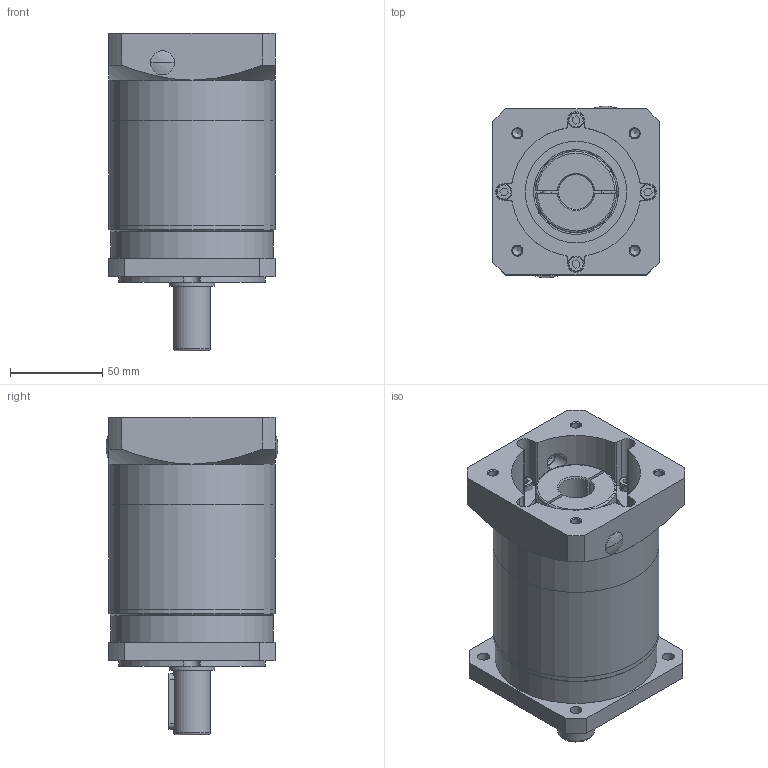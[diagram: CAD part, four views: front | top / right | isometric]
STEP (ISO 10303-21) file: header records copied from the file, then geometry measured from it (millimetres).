
FILE_DESCRIPTION(/* description */ (''),/* implementation_level */ '2;1');
FILE_NAME(/* name */ 'NA-090-L2(19-70-90-M6)(输出轴Φ20）.stp',/* time_stamp */ '2021-11-24T14:30:42+08:00',/* author */ (''),/* organization */ (''),/* preprocessor_version */ 'ST-DEVELOPER v16',/* originating_system */ 'SIEMENS PLM Software NX 10.0',/* authorisation */ '');
FILE_SCHEMA (('AP203_CONFIGURATION_CONTROLLED_3D_DESIGN_OF_MECHANICAL_PARTS_AND_ASSEMBLIES_MIM_LF { 1 0 10303 403 2 1 2}'));
Length unit declared in the file: millimetre
Products named in the file (1): 25BCED220ggq
Bounding box: 90 x 93 x 172.1 mm (x, y, z)
Volume: 662770.5 mm3; surface area: 168051.9 mm2
Topology: 12 solids, 14 shells, 828 faces, 2377 edges, 1586 vertices
Faces by surface type: plane 283, cylinder 240, sphere 160, torus 104, cone 35, bspline 6
Full cylindrical faces by diameter (mm): 4.2 x8, 5 x8, 5.5 x4, 6.5 x4, 9 x4, 10 x4, 19 x1, 20 x1, 25 x1, 28 x1, 37 x1, 38 x2, 39 x1, 42 x1, 48 x1, 52 x1, 55 x2, 62 x2, 65 x1, 72 x2, 88 x1, 90 x3
Entity records: 32059 total; most frequent: CARTESIAN_POINT 10820, ORIENTED_EDGE 4480, DIRECTION 4373, EDGE_CURVE 2240, AXIS2_PLACEMENT_3D 1893, VERTEX_POINT 1550, CIRCLE 1071, EDGE_LOOP 1039
